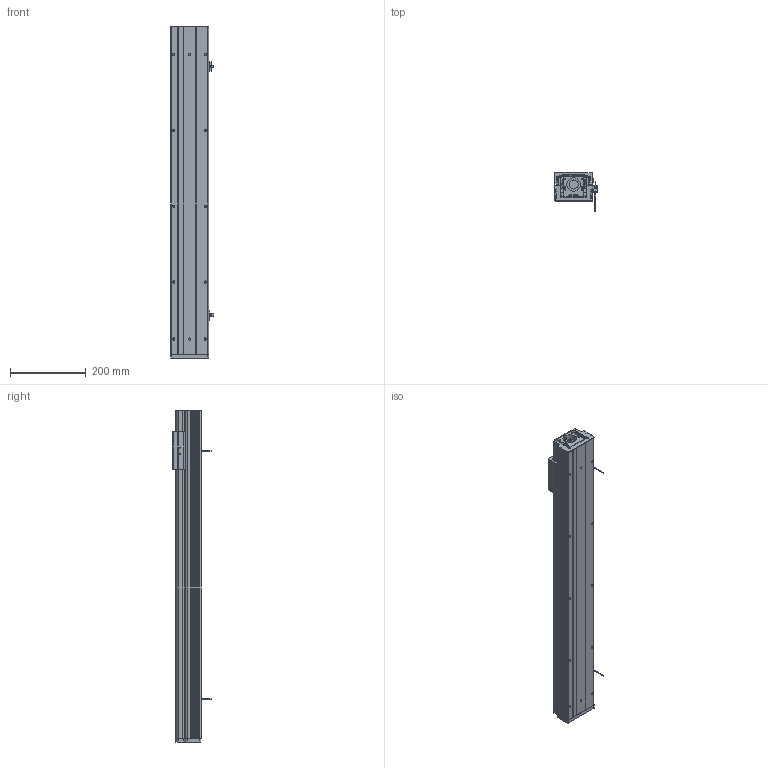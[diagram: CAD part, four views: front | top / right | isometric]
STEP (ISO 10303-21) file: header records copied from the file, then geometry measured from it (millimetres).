
FILE_DESCRIPTION (( 'STEP AP203' ), '1' );
FILE_NAME ('CTHM10-S650-O-BC.STEP', '2019-12-18T01:00:56', ( '微软用户' ), ( '微软中国' ), 'SwSTEP 2.0', 'SolidWorks 2017', '' );
FILE_SCHEMA (( 'CONFIG_CONTROL_DESIGN' ));
Length unit declared in the file: millimetre
Products named in the file (11): CTHM10綴傷裔; 覜茼え; 遣喳蝶15x12x8; CTHM10菁釱(200); EE-SX672-BR; CTHM10痄雄釱(党蜊); CTHM10-S650-O-BC; CTHM10盓傅耜; CTHM10固定侧自制轴承座; CTHM10裔啣(100); CTHM10傷裔(祥結裔啣)
Assembly tree (14 placements, depth 2):
  CTHM10-S650-O-BC
    CTHM10菁釱(200)
    CTHM10痄雄釱(党蜊)
    CTHM10盓傅耜
    CTHM10固定侧自制轴承座
    CTHM10裔啣(100)
    CTHM10傷裔(祥結裔啣)
    CTHM10綴傷裔
    覜茼え
    遣喳蝶15x12x8  x4
    EE-SX672-BR  x2
Bounding box: 114.7 x 100.2 x 875 mm (x, y, z)
Volume: 2296194.7 mm3; surface area: 770497.8 mm2
Topology: 14 solids, 14 shells, 950 faces, 2692 edges, 1756 vertices
Faces by surface type: cylinder 509, plane 397, cone 44
Entity records: 32179 total; most frequent: CARTESIAN_POINT 7763, DIRECTION 4898, ORIENTED_EDGE 4856, EDGE_CURVE 2428, AXIS2_PLACEMENT_3D 1793, VERTEX_POINT 1604, VECTOR 1312, LINE 1312
